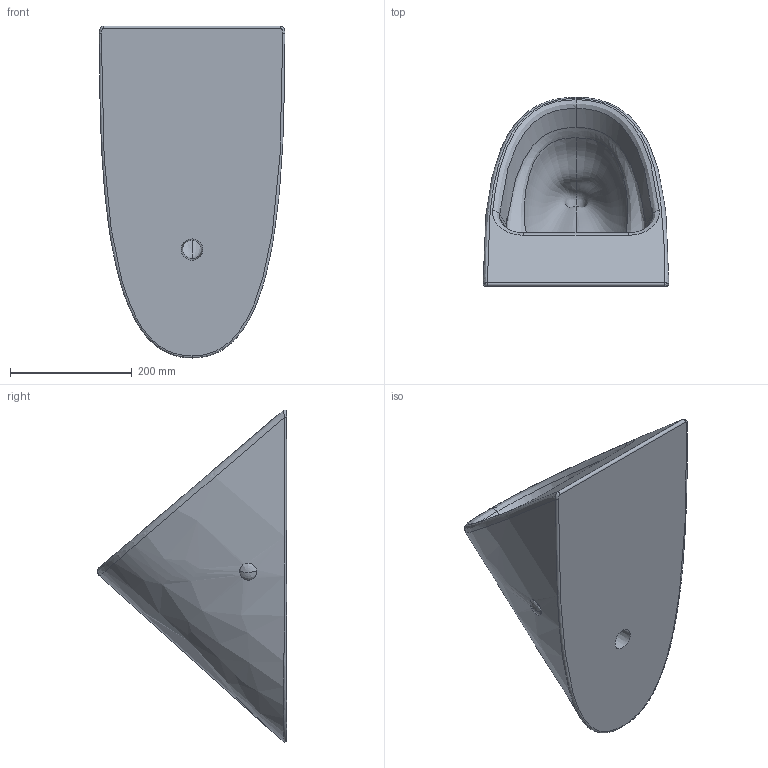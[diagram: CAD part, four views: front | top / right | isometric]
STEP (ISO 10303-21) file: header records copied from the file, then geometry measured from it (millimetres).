
FILE_DESCRIPTION (( 'STEP AP203' ), '1' );
FILE_NAME ('FMOR00E00000.STEP', '2025-04-16T14:45:00', ( '' ), ( '' ), 'SwSTEP 2.0', 'SolidWorks 2024', '' );
FILE_SCHEMA (( 'CONFIG_CONTROL_DESIGN' ));
Length unit declared in the file: millimetre
Products named in the file (1): FMOR00E00000
Bounding box: 304.99 x 310.53 x 545 mm (x, y, z)
Volume: 15035207.8 mm3; surface area: 593453.4 mm2
Topology: 3 solids, 3 shells, 46 faces, 109 edges, 67 vertices
Faces by surface type: bspline 31, plane 9, cylinder 5, cone 1
Full cylindrical faces by diameter (mm): 21.5 x2
Entity records: 14342 total; most frequent: CARTESIAN_POINT 13494, ORIENTED_EDGE 202, EDGE_CURVE 101, DIRECTION 79, VERTEX_POINT 67, B_SPLINE_CURVE_WITH_KNOTS 66, EDGE_LOOP 54, FACE_OUTER_BOUND 49
